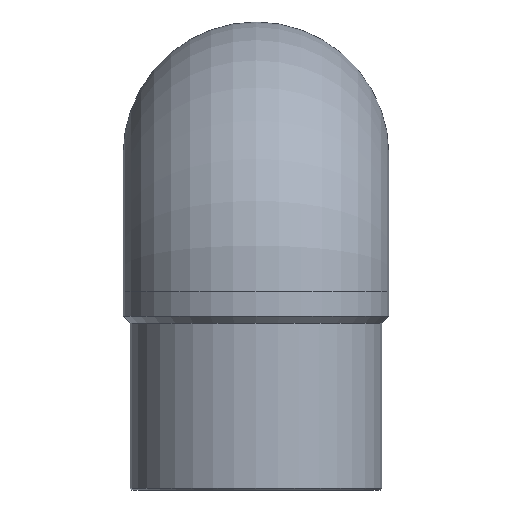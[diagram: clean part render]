
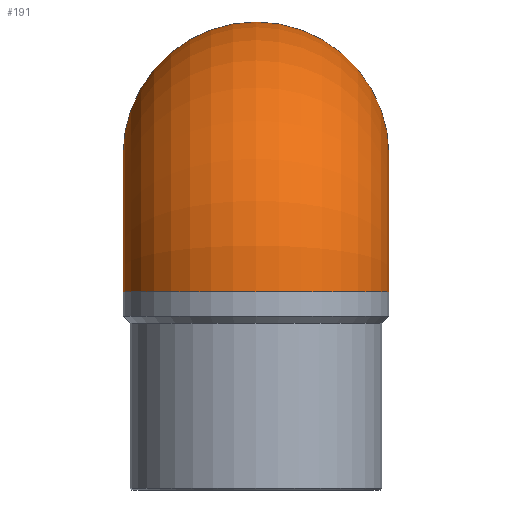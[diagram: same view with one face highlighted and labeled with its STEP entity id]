
A CAD part, left-side view. The second image highlights one B-rep face of the part: STEP entity #191.
In plain terms, the highlighted toroidal (fillet/blend) face has major radius 87 mm and minor radius 84.5 mm.
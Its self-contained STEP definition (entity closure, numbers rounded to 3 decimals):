
#20=TOROIDAL_SURFACE('',#231,87.,84.5);
#59=ORIENTED_EDGE('',*,*,#77,.F.);
#60=ORIENTED_EDGE('',*,*,#79,.T.);
#77=EDGE_CURVE('',#96,#96,#114,.F.);
#79=EDGE_CURVE('',#98,#98,#116,.F.);
#96=VERTEX_POINT('',#312);
#98=VERTEX_POINT('',#318);
#114=CIRCLE('',#217,84.5);
#116=CIRCLE('',#221,84.5);
#142=EDGE_LOOP('',(#59));
#143=EDGE_LOOP('',(#60));
#169=FACE_BOUND('',#142,.T.);
#170=FACE_BOUND('',#143,.T.);
#191=ADVANCED_FACE('',(#169,#170),#20,.T.);
#217=AXIS2_PLACEMENT_3D('',#311,#256,#257);
#221=AXIS2_PLACEMENT_3D('',#317,#264,#265);
#231=AXIS2_PLACEMENT_3D('',#363,#284,#285);
#256=DIRECTION('',(-1.,0.,0.));
#257=DIRECTION('',(0.,0.,-1.));
#264=DIRECTION('',(0.,0.,-1.));
#265=DIRECTION('',(1.,0.,0.));
#284=DIRECTION('',(0.,1.,0.));
#285=DIRECTION('',(0.,0.,1.));
#311=CARTESIAN_POINT('',(87.,0.,213.));
#312=CARTESIAN_POINT('',(87.,0.,128.5));
#317=CARTESIAN_POINT('',(0.,0.,126.));
#318=CARTESIAN_POINT('',(84.5,0.,126.));
#363=CARTESIAN_POINT('',(87.,0.,126.));
